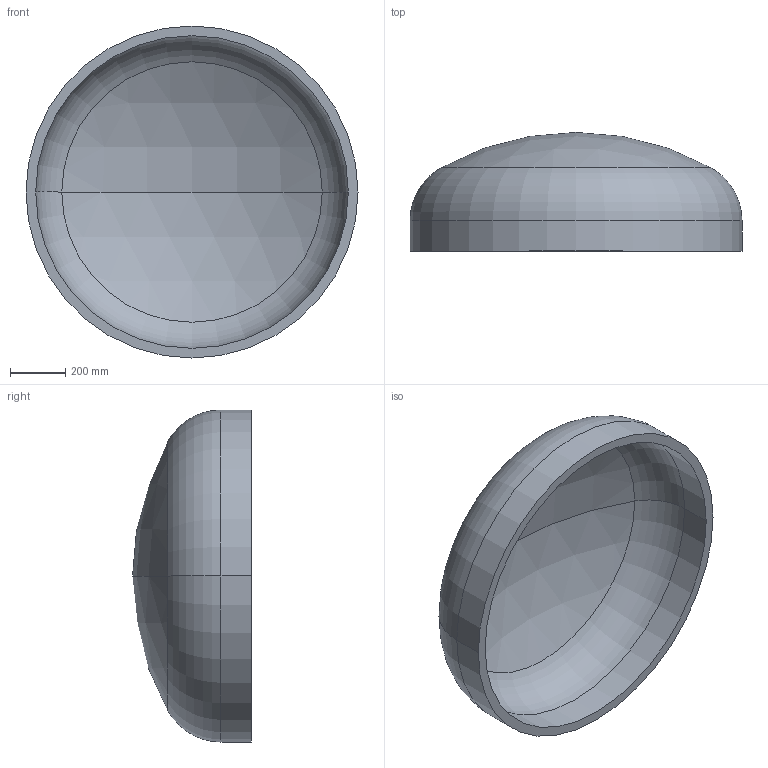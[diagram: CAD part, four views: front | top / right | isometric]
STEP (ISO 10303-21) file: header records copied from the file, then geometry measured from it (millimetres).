
FILE_DESCRIPTION (( 'STEP AP203' ), '1' );
FILE_NAME ('DIN 28013 Korbbogenform_-_Boden DIN 28013 - 1200 x 110 - I - s=35.step', '2016-07-01T09:27:00', ( '' ), ( '' ), 'SwSTEP 2.0', 'SolidWorks 2013', '' );
FILE_SCHEMA (( 'CONFIG_CONTROL_DESIGN' ));
Length unit declared in the file: millimetre
Products named in the file (1): DIN 28013 Korbbogenform_-_Boden DIN 28013 - 1200 x 110 - I - s=35
Bounding box: 1200 x 429.56 x 1200 mm (x, y, z)
Volume: 66874631 mm3; surface area: 3952070.5 mm2
Topology: 1 solids, 1 shells, 13 faces, 24 edges, 14 vertices
Faces by surface type: torus 4, cylinder 4, sphere 4, plane 1
Entity records: 407 total; most frequent: DIRECTION 72, CARTESIAN_POINT 52, ORIENTED_EDGE 48, AXIS2_PLACEMENT_3D 34, EDGE_CURVE 24, CIRCLE 20, VERTEX_POINT 14, EDGE_LOOP 14
